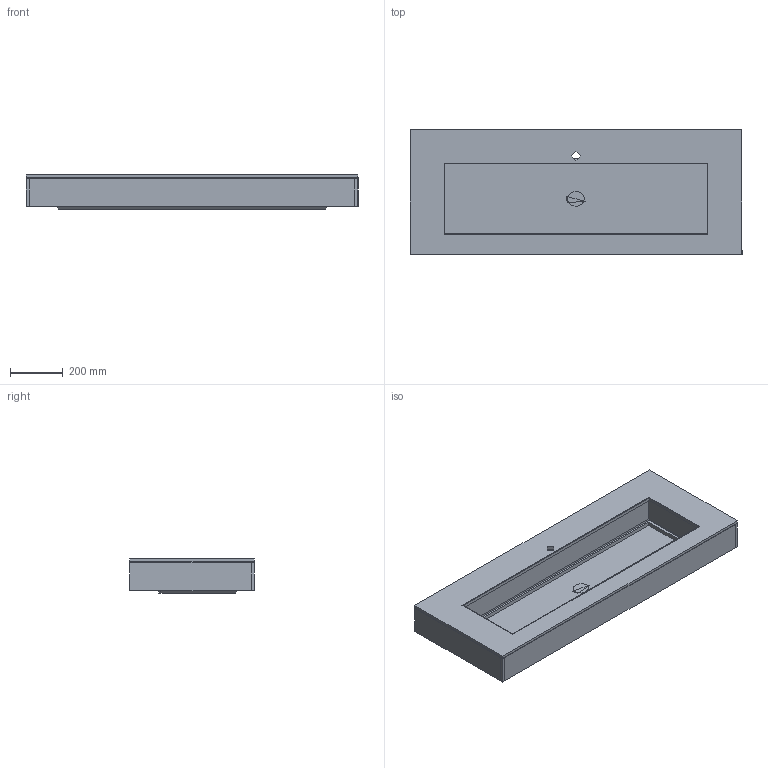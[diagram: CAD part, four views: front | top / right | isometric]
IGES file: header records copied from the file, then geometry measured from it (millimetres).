
Start section: Data from Parasolid IGES Translator 22.0.50, Copyright(c) 2006 Siemens P LM Software. All Rights Reserved.
Global section: file name: noorth-top-H 12 D 47,2 W 126_4370.igs; native system: By Siemens PLM Incorporated; preprocessor: XPlus GENERIC/IGES 22.0.50; author: Noname; organization: Noname; date: 20251109.150431; units: metre
Bounding box: 1260 x 472 x 129.29 mm (x, y, z)
Volume: 23831380.7 mm3; surface area: 2833259.2 mm2
Topology: 12 solids, 12 shells, 115 faces, 257 edges, 183 vertices
Faces by surface type: plane 97, bspline 9, extrusion 8, cylinder 1
Full cylindrical faces by diameter (mm): 34.697 x1
